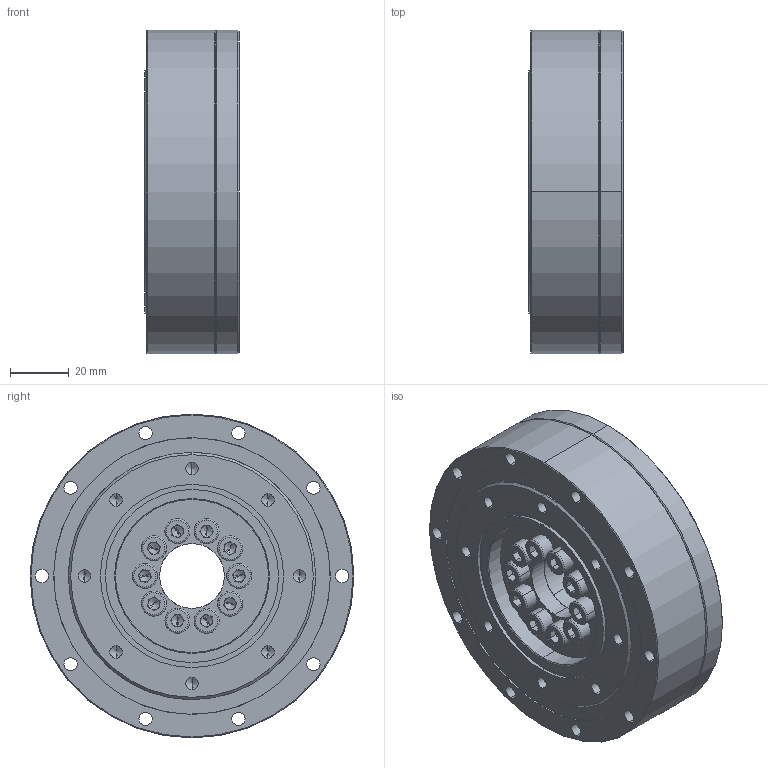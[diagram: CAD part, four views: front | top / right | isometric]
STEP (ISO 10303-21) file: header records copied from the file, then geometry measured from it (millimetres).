
FILE_DESCRIPTION (( 'STEP AP203' ), '1' );
FILE_NAME ('LCD-25-XXX-C-I.STEP', '2016-07-28T07:13:30', ( 'lenovo' ), ( 'Microsoft' ), 'SwSTEP 2.0', 'SolidWorks 2013', '' );
FILE_SCHEMA (( 'CONFIG_CONTROL_DESIGN' ));
Length unit declared in the file: millimetre
Products named in the file (14): DIN 912 M5 x 12 --- 12C_DIN 912 M5 x 12 --- 12C; RZC-25悵厥殤; YF-25-I; 柔性轴承RZC-25; LCD-25-XXX-C-I; LCD-25-XXX-P01; LCD-25-XXX-P02; LCD-25-XXX-P05; LCD-25-XXX-P04; LCD-25-XXX-P03; ISO 7046-1 - M2.5 x 4 - Z --- 4C_ISO 7046-1 - M2.5 x 4 - Z --- 4C; DB-25-I; DIN 912 M3 x 12 --- 12C_DIN 912 M3 x 12 --- 12C; RZC-25内外圈+钢球
Assembly tree (29 placements, depth 3):
  LCD-25-XXX-C-I
    LCD-25-XXX-P03
    DB-25-I
    柔性轴承RZC-25
      RZC-25内外圈+钢球
      RZC-25悵厥殤
    LCD-25-XXX-P01
    LCD-25-XXX-P02
    LCD-25-XXX-P05
    LCD-25-XXX-P04
    ISO 7046-1 - M2.5 x 4 - Z --- 4C_ISO 7046-1 - M2.5 x 4 - Z --- 4C  x4
    DIN 912 M3 x 12 --- 12C_DIN 912 M3 x 12 --- 12C  x5
    DIN 912 M5 x 12 --- 12C_DIN 912 M5 x 12 --- 12C  x10
    YF-25-I
Bounding box: 32 x 110 x 110 mm (x, y, z)
Volume: 222346.6 mm3; surface area: 117154.3 mm2
Topology: 53 solids, 53 shells, 1157 faces, 2761 edges, 1679 vertices
Faces by surface type: plane 413, cylinder 410, cone 186, torus 102, sphere 46
Entity records: 22108 total; most frequent: DIRECTION 3999, CARTESIAN_POINT 3352, ORIENTED_EDGE 3156, AXIS2_PLACEMENT_3D 1718, EDGE_CURVE 1578, VERTEX_POINT 1019, CIRCLE 1002, EDGE_LOOP 897
